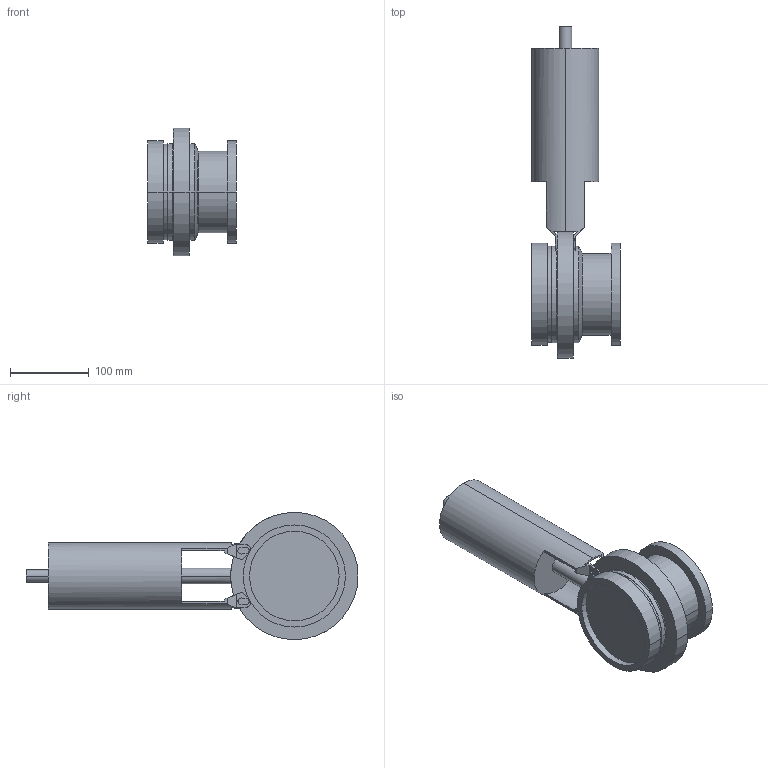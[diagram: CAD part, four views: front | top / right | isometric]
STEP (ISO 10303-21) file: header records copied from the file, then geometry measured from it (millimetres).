
FILE_DESCRIPTION(('Creo Elements/Direct Modeling STEP Export'),'2;1');
FILE_NAME('SV1-100-FZ-1K2G.stp','2013-02-19T 8:22:25',(''),(''),'Creo Elements/Direct Modeling STEP processor for AP214 (Solid Model)','Creo Elements/Direct Modeling 17.0D 15-Jul-2011 (C) Parametric Technology GmbH','');
FILE_SCHEMA(('AUTOMOTIVE_DESIGN { 1 0 10303 214 1 1 1 1 }'));
Length unit declared in the file: millimetre
Products named in the file (2): SV1-100-FZ-1K2G
Assembly tree (1 placements, depth 2):
  SV1-100-FZ-1K2G
    SV1-100-FZ-1K2G
Bounding box: 113.2 x 422.51 x 162 mm (x, y, z)
Volume: 2359238.3 mm3; surface area: 177567.7 mm2
Topology: 1 solids, 1 shells, 120 faces, 317 edges, 202 vertices
Faces by surface type: plane 74, cylinder 36, torus 6, cone 4
Entity records: 4067 total; most frequent: CARTESIAN_POINT 1122, ORIENTED_EDGE 634, DIRECTION 577, EDGE_CURVE 317, VERTEX_POINT 202, AXIS2_PLACEMENT_3D 196, VECTOR 185, LINE 185
